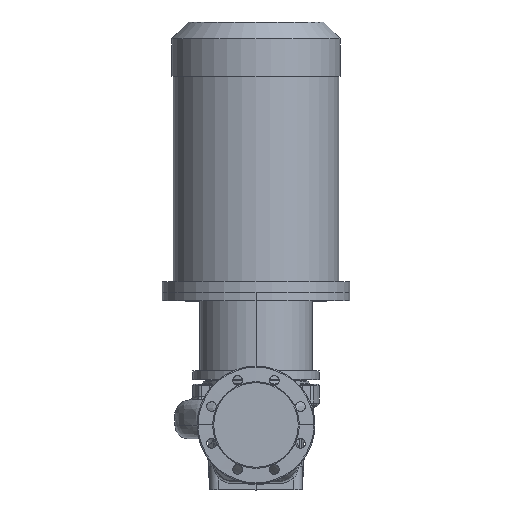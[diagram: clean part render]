
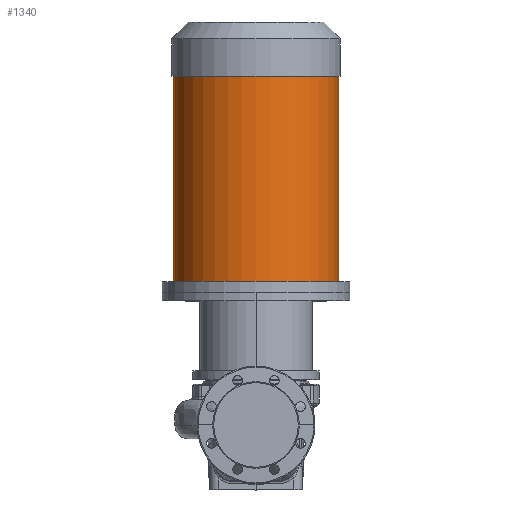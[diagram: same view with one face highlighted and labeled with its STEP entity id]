
A CAD part, top view. The second image highlights one B-rep face of the part: STEP entity #1340.
In plain terms, the highlighted cylindrical face has radius 154.5 mm (diameter 309 mm), a partial arc.
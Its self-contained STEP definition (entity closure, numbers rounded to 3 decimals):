
#116 = EDGE_LOOP ( 'NONE', ( #36971, #45861, #30866, #56553 ) ) ;
#1340 = ADVANCED_FACE ( 'NONE', ( #25016 ), #49183, .T. ) ;
#13298 = VECTOR ( 'NONE', #16893, 1000. ) ;
#15807 = CARTESIAN_POINT ( 'NONE',  ( 0., 248.3, 0. ) ) ;
#16615 = VERTEX_POINT ( 'NONE', #54523 ) ;
#16893 = DIRECTION ( 'NONE',  ( 0., -1., 0. ) ) ;
#19048 = CIRCLE ( 'NONE', #38389, 154.5 ) ;
#20353 = CARTESIAN_POINT ( 'NONE',  ( -154.5, 268.3, 0. ) ) ;
#21983 = EDGE_CURVE ( 'NONE', #16615, #44442, #19048, .T. ) ;
#23986 = CARTESIAN_POINT ( 'NONE',  ( 154.5, 268.3, 0. ) ) ;
#24910 = DIRECTION ( 'NONE',  ( 0., -1., 0. ) ) ;
#25016 = FACE_OUTER_BOUND ( 'NONE', #116, .T. ) ;
#27255 = DIRECTION ( 'NONE',  ( 0., -1., 0. ) ) ;
#28754 = CARTESIAN_POINT ( 'NONE',  ( 0., 268.3, 0. ) ) ;
#28896 = CARTESIAN_POINT ( 'NONE',  ( -154.5, 652.3, 0. ) ) ;
#29148 = LINE ( 'NONE', #34429, #13298 ) ;
#30866 = ORIENTED_EDGE ( 'NONE', *, *, #48171, .T. ) ;
#34429 = CARTESIAN_POINT ( 'NONE',  ( -154.5, 248.3, 0. ) ) ;
#36971 = ORIENTED_EDGE ( 'NONE', *, *, #49755, .F. ) ;
#37585 = AXIS2_PLACEMENT_3D ( 'NONE', #15807, #46655, #50349 ) ;
#38389 = AXIS2_PLACEMENT_3D ( 'NONE', #47215, #55706, #51099 ) ;
#42027 = VERTEX_POINT ( 'NONE', #20353 ) ;
#43517 = VECTOR ( 'NONE', #27255, 1000. ) ;
#43745 = VERTEX_POINT ( 'NONE', #23986 ) ;
#44442 = VERTEX_POINT ( 'NONE', #28896 ) ;
#44662 = CARTESIAN_POINT ( 'NONE',  ( 154.5, 248.3, 0. ) ) ;
#45861 = ORIENTED_EDGE ( 'NONE', *, *, #21983, .T. ) ;
#46655 = DIRECTION ( 'NONE',  ( 0., -1., 0. ) ) ;
#47215 = CARTESIAN_POINT ( 'NONE',  ( 0., 652.3, 0. ) ) ;
#47842 = CIRCLE ( 'NONE', #51379, 154.5 ) ;
#48171 = EDGE_CURVE ( 'NONE', #44442, #42027, #29148, .T. ) ;
#48376 = EDGE_CURVE ( 'NONE', #43745, #42027, #47842, .T. ) ;
#49183 = CYLINDRICAL_SURFACE ( 'NONE', #37585, 154.5 ) ;
#49755 = EDGE_CURVE ( 'NONE', #16615, #43745, #52489, .T. ) ;
#50349 = DIRECTION ( 'NONE',  ( -1., 0., 0. ) ) ;
#51099 = DIRECTION ( 'NONE',  ( -1., 0., 0. ) ) ;
#51379 = AXIS2_PLACEMENT_3D ( 'NONE', #28754, #24910, #55786 ) ;
#52489 = LINE ( 'NONE', #44662, #43517 ) ;
#54523 = CARTESIAN_POINT ( 'NONE',  ( 154.5, 652.3, 0. ) ) ;
#55706 = DIRECTION ( 'NONE',  ( 0., -1., 0. ) ) ;
#55786 = DIRECTION ( 'NONE',  ( -1., 0., 0. ) ) ;
#56553 = ORIENTED_EDGE ( 'NONE', *, *, #48376, .F. ) ;
